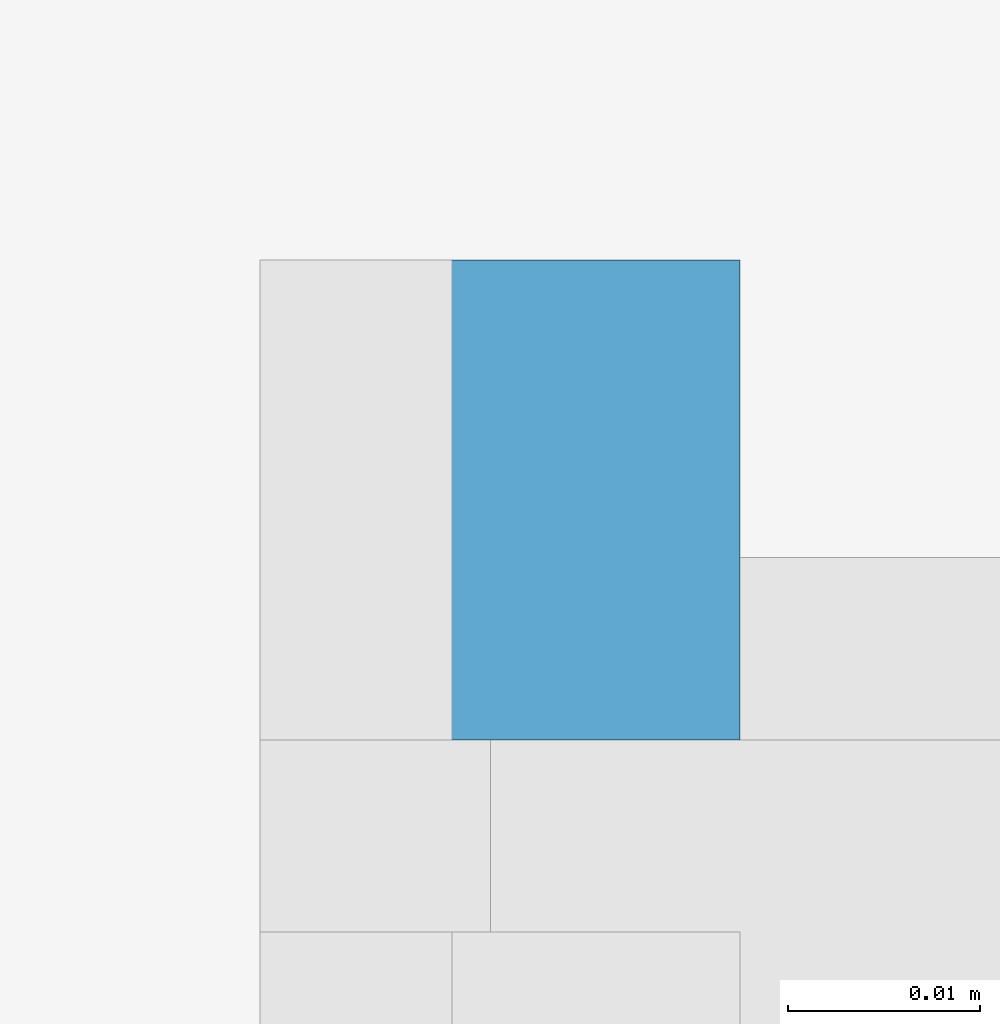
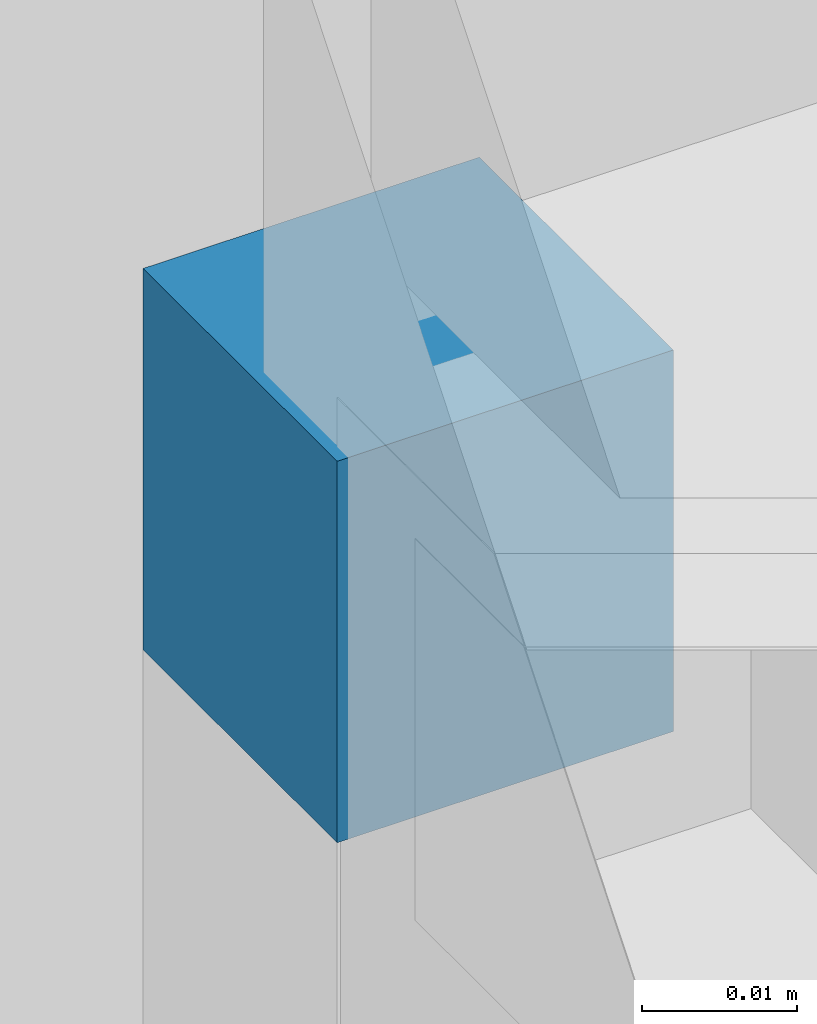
# One storey, part 9 of 37: 1 member, 1 element without a shape of its own.
"""IFC2X3 building model written with IfcOpenShell, lengths in millimetres."""

from ifc_helpers import new_model, entity, si_unit, converted_unit, derived_unit, direction, frame, origin, origin_with_axes, origin_2d_with_axis, place, context, subcontext, project, spatial, rectangle, extrude, source, transform, mapped, material, type_object, element, aggregate, save


model = new_model("IFC2X3")

# Units and contexts
model_context = context("Model", 3, precision=0.01, world=frame((0.0, 4.29681676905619e-09, 0.0)), true_north=direction((4.01073788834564e-13, 1.0)))
plan_context = context("Plan", 3, precision=0.01, world=frame((0.0, 4.29681676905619e-09, 0.0)), true_north=direction((4.01073788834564e-13, 1.0)))
body_context = subcontext(model_context, "Body", "Model", "MODEL_VIEW")
ifc_project = project(units=[converted_unit("PLANEANGLEUNIT", "DEGREE", entity("IfcPositiveLengthMeasure", 0.0174532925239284), si_unit("PLANEANGLEUNIT", "RADIAN"), dimensions=[0, 0, 0, 0, 0, 0, 0]), si_unit("AREAUNIT", "SQUARE_METRE"), si_unit("LENGTHUNIT", "METRE", prefix="MILLI"), si_unit("MASSUNIT", "GRAM", prefix="KILO"), si_unit("POWERUNIT", "WATT"), si_unit("PRESSUREUNIT", "PASCAL"), si_unit("FORCEUNIT", "NEWTON", prefix="KILO"), si_unit("ELECTRICVOLTAGEUNIT", "VOLT"), si_unit("ELECTRICCURRENTUNIT", "AMPERE"), si_unit("THERMODYNAMICTEMPERATUREUNIT", "DEGREE_CELSIUS"), si_unit("TIMEUNIT", "SECOND"), si_unit("VOLUMEUNIT", "CUBIC_METRE"), derived_unit("LINEARVELOCITYUNIT", [(si_unit("LENGTHUNIT", "METRE"), 1), (si_unit("TIMEUNIT", "SECOND"), -1)]), derived_unit("VOLUMETRICFLOWRATEUNIT", [(si_unit("VOLUMEUNIT", "CUBIC_METRE"), 1), (si_unit("TIMEUNIT", "SECOND"), -1)]), derived_unit("THERMALTRANSMITTANCEUNIT", [(si_unit("POWERUNIT", "WATT"), 1), (si_unit("THERMODYNAMICTEMPERATUREUNIT", "KELVIN"), -1), (si_unit("AREAUNIT", "SQUARE_METRE"), -1)]), derived_unit("SOUNDPRESSUREUNIT", [(si_unit("PRESSUREUNIT", "PASCAL"), 1)])], contexts=[model_context, plan_context])

# Site, building, storey
site_placement = place(None, origin_with_axes())
site = spatial("IfcSite", under=ifc_project, at=site_placement, Name="ENGM", CompositionType="ELEMENT")
building_placement = place(site_placement, origin_with_axes())
building = spatial("IfcBuilding", under=site, at=building_placement, Name="TS", CompositionType="ELEMENT")
storey_placement = place(building_placement, frame((0.0, 0.0, 210900.0), z_axis=(0.0, 0.0, 1.0), x_axis=(1.0, 0.0, 0.0)))
storey = spatial("IfcBuildingStorey", under=building, at=storey_placement, Name="Nivå F", CompositionType="ELEMENT", Elevation=210900.0)

# Curtain wall, member
curtain_wall_type = type_object("IfcCurtainWallType", Name="Curtain Wall:A242 - IGV - Glass - 10 mm", PredefinedType="NOTDEFINED")
curtain_wall_placement = place(storey_placement, frame((0.0, 0.0, -210900.0), z_axis=(0.0, 0.0, 1.0), x_axis=(1.0, 0.0, 0.0)))
curtain_wall = element("IfcCurtainWall", 1, at=curtain_wall_placement, inside=storey, type_object=curtain_wall_type, Name="Curtain Wall:A242 - IGV - Glass - 10 mm", ObjectType="Curtain Wall:A242 - IGV - Glass - 10 mm")
ifc_material = material(Name="T2 - Rubber")
member_type = type_object("IfcMemberType", Name="Rectangular Mullion:A233 - Sprosse - 00(post)+25(fuge inkl glass) x 30 mm", PredefinedType="MULLION", material=ifc_material)
shared_shape = source(origin(), body_context, "Body", "SweptSolid", [
    extrude(rectangle(XDim=30.0, YDim=25.0, at=origin_2d_with_axis()), frame((-15.0, 12.5, -25.0), z_axis=(0.0, 0.0, 1.0), x_axis=(-1.0, 0.0, 0.0)), (0.0, 0.0, 1.0), 25.0000000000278),
])
member_placement = place(curtain_wall_placement, frame((524920.000000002, 461709.999999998, 213400.0), z_axis=(0.0, 1.0, 0.0), x_axis=(0.0, 0.0, 1.0)))
member = element("IfcMember", 2, at=member_placement, type_object=member_type, material=ifc_material, Name="Rectangular Mullion:A233 - Sprosse - 00(post)+25(fuge inkl glass) x 30 mm", ObjectType="Rectangular Mullion:A233 - Sprosse - 00(post)+25(fuge inkl glass) x 30 mm", context=body_context, shape_type="MappedRepresentation", body=[
    mapped(shared_shape, transform((0.0, 0.0, 0.0), scale=1.0)),
])
aggregate(curtain_wall, [member])

save(model, "model.ifc")
